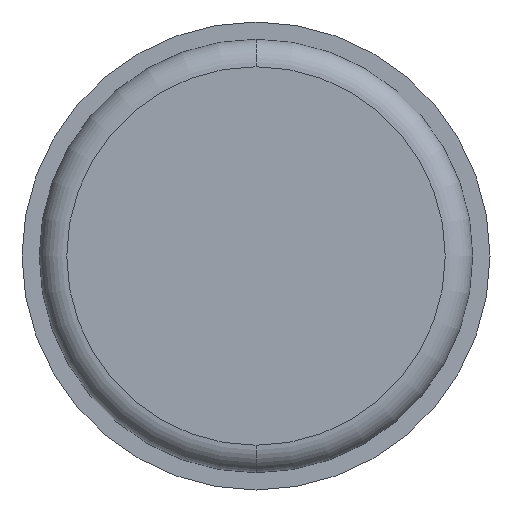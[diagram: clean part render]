
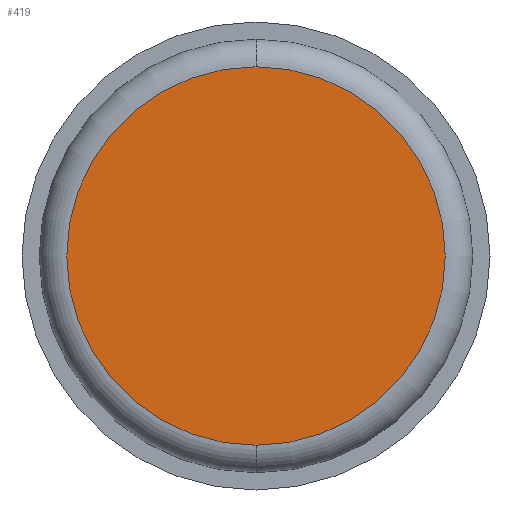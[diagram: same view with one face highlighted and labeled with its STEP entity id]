
A CAD part, front view. The second image highlights one B-rep face of the part: STEP entity #419.
In plain terms, the highlighted planar face has unit normal (0, -1, 0).
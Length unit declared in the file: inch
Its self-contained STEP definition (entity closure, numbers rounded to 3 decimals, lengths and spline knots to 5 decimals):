
#16 = CARTESIAN_POINT ( 'NONE',  ( 0.02265, -0.098, 0. ) ) ;
#299 = DIRECTION ( 'NONE',  ( 0., 1., 0. ) ) ;
#315 = ORIENTED_EDGE ( 'NONE', *, *, #1118, .F. ) ;
#324 = AXIS2_PLACEMENT_3D ( 'NONE', #867, #299, #968 ) ;
#338 = DIRECTION ( 'NONE',  ( 0., 0., 1. ) ) ;
#417 = AXIS2_PLACEMENT_3D ( 'NONE', #16, #564, #759 ) ;
#419 = ADVANCED_FACE ( 'NONE', ( #745 ), #1020, .F. ) ;
#422 = CIRCLE ( 'NONE', #473, 0.0275 ) ;
#439 = CARTESIAN_POINT ( 'NONE',  ( 0., -0.098, -0.0275 ) ) ;
#447 = EDGE_CURVE ( 'NONE', #746, #939, #422, .T. ) ;
#473 = AXIS2_PLACEMENT_3D ( 'NONE', #521, #1102, #338 ) ;
#521 = CARTESIAN_POINT ( 'NONE',  ( 0., -0.098, 0. ) ) ;
#564 = DIRECTION ( 'NONE',  ( 0., 1., 0. ) ) ;
#706 = CIRCLE ( 'NONE', #324, 0.0275 ) ;
#745 = FACE_OUTER_BOUND ( 'NONE', #998, .T. ) ;
#746 = VERTEX_POINT ( 'NONE', #1152 ) ;
#759 = DIRECTION ( 'NONE',  ( 0., 0., 1. ) ) ;
#867 = CARTESIAN_POINT ( 'NONE',  ( 0., -0.098, 0. ) ) ;
#882 = ORIENTED_EDGE ( 'NONE', *, *, #447, .F. ) ;
#939 = VERTEX_POINT ( 'NONE', #439 ) ;
#968 = DIRECTION ( 'NONE',  ( 0., 0., 1. ) ) ;
#998 = EDGE_LOOP ( 'NONE', ( #882, #315 ) ) ;
#1020 = PLANE ( 'NONE',  #417 ) ;
#1102 = DIRECTION ( 'NONE',  ( 0., 1., 0. ) ) ;
#1118 = EDGE_CURVE ( 'NONE', #939, #746, #706, .T. ) ;
#1152 = CARTESIAN_POINT ( 'NONE',  ( 0., -0.098, 0.0275 ) ) ;
